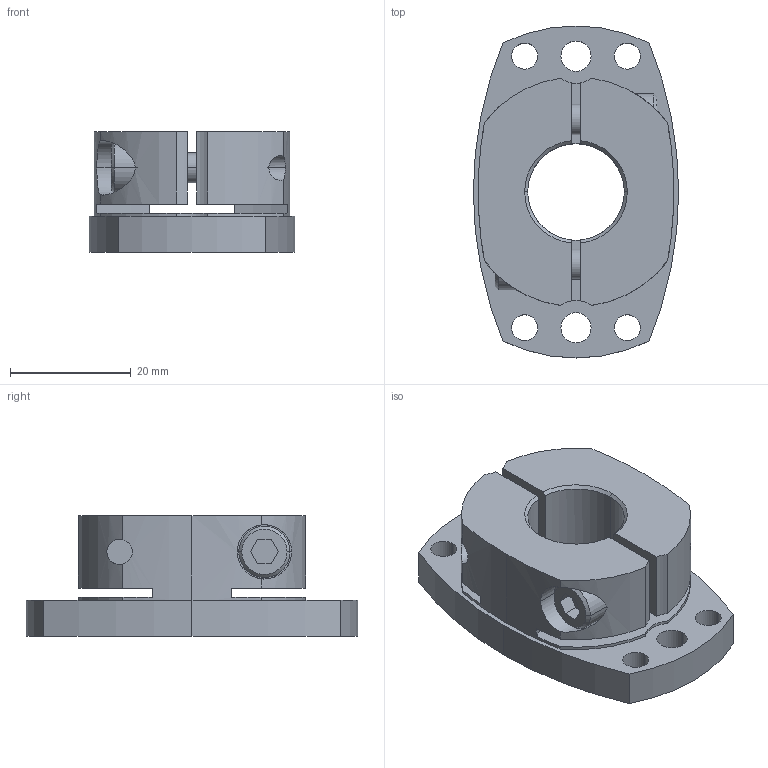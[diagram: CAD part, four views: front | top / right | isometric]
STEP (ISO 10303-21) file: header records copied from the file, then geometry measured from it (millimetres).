
FILE_DESCRIPTION((''),'2;1');
FILE_NAME('SHDB-55B-16.stp','2026-01-28T07:42:52',(''),(''),'AutoCAD STEP 2000i','AutoCAD 2000i',', , ');
FILE_SCHEMA(('CONFIG_CONTROL_DESIGN'));
Length unit declared in the file: millimetre
Products named in the file (2): SHDB-55B-10; 忣兜1
Assembly tree (1 placements, depth 2):
  SHDB-55B-10
    忣兜1
Bounding box: 34 x 55 x 20 mm (x, y, z)
Volume: 17913.3 mm3; surface area: 9040.7 mm2
Topology: 1 solids, 1 shells, 102 faces, 280 edges, 184 vertices
Faces by surface type: cylinder 58, plane 34, cone 10
Entity records: 3683 total; most frequent: CARTESIAN_POINT 856, DIRECTION 602, ORIENTED_EDGE 560, EDGE_CURVE 280, AXIS2_PLACEMENT_3D 238, VERTEX_POINT 184, CIRCLE 134, VECTOR 126
